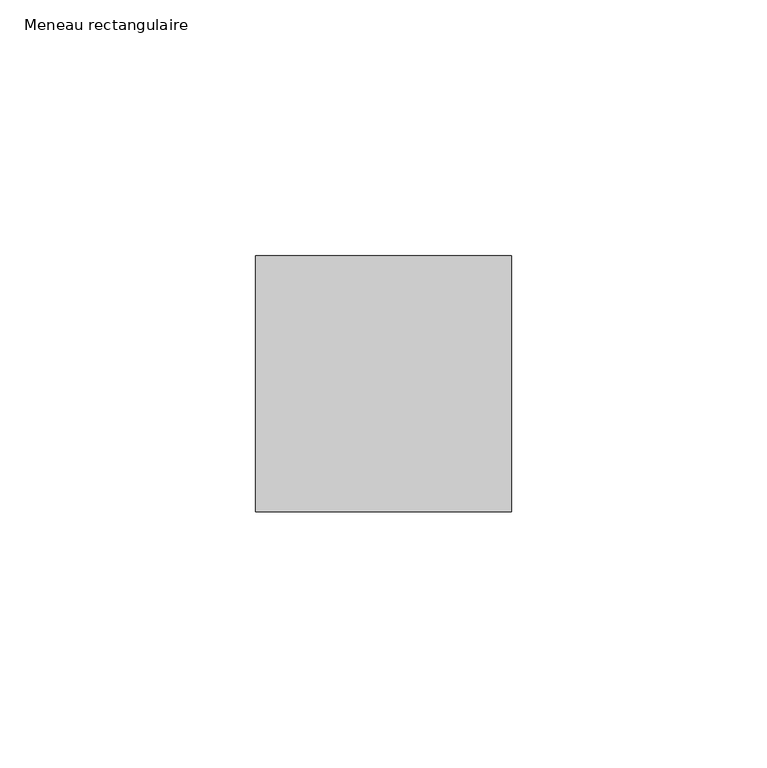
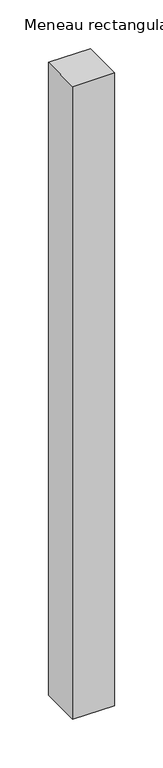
"""IFC4 building model written with IfcOpenShell, lengths in millimetres: member geometry, Meneau rectangulaire : 5x5cm aluminium laqué gris foncé."""

from ifc_helpers import new_model, si_unit, frame, origin, place, context, project, spatial, polyline, outline, extrude, source, transform, mapped, element, save


def meneau_rectangulaire_7d612d43(model_context):
    return source(origin(), model_context, "Body", "SweptSolid", [
        extrude(outline(polyline([(25.0, 25.0), (25.0, -25.0), (-25.0, -25.0), (-25.0, 25.0), (25.0, 25.0)])), frame((0.0, 0.0, -796.05362), z_axis=(0.0, 0.0, 1.0), x_axis=(1.0, 0.0, 0.0)), (0.0, 0.0, 1.0), 796.05362),
    ])


if __name__ == "__main__":
    model = new_model("IFC4")
    model_context = context("Model", 3, world=origin())
    ifc_project = project(units=[si_unit("LENGTHUNIT", "METRE", prefix="MILLI")], contexts=[model_context])
    site = spatial("IfcSite", under=ifc_project)
    building = spatial("IfcBuilding", under=site)
    placement = place(None, origin())
    meneau_rectangulaire_shape = meneau_rectangulaire_7d612d43(model_context)
    element("IfcMember", 1, ObjectType="Meneau rectangulaire : 5x5cm aluminium laqué gris foncé", at=placement, inside=building, context=model_context, shape_type="MappedRepresentation", body=[
        mapped(meneau_rectangulaire_shape, transform((0.0, 0.0, 0.0), x_axis=(1.0, 0.0, 0.0), y_axis=(0.0, 1.0, 0.0), z_axis=(0.0, 0.0, 1.0))),
    ])
    save(model, "model.ifc")
